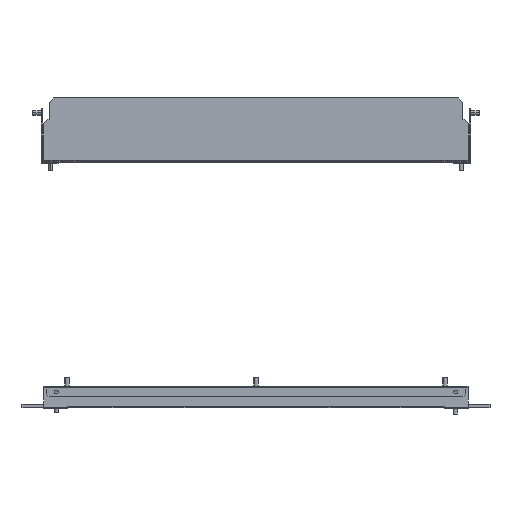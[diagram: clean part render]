
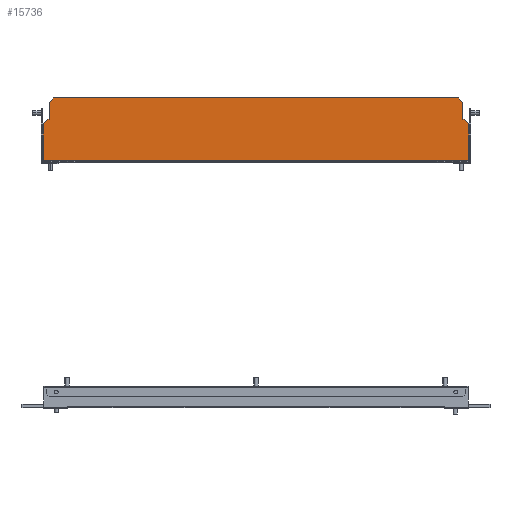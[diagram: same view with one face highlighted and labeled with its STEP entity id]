
A CAD part, front view. The second image highlights one B-rep face of the part: STEP entity #15736.
In plain terms, the highlighted planar face has unit normal (0, -1, 0).
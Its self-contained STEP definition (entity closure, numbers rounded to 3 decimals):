
#14611=CARTESIAN_POINT(' ',(247.5,-1.5,0.6));
#14612=VERTEX_POINT(' ',#14611);
#14626=CARTESIAN_POINT(' ',(247.5,-1.5,0.6));
#14631=DIRECTION(' ',(-1.,0.,0.));
#14636=VECTOR(' ',#14631,1.);
#14641=LINE('',#14626,#14636);
#14646=CARTESIAN_POINT(' ',(-247.5,-1.5,0.6));
#14647=VERTEX_POINT(' ',#14646);
#14651=EDGE_CURVE(' ',#14612,#14647,#14641,.T.);
#14831=CARTESIAN_POINT(' ',(-247.5,-1.5,0.6));
#14836=DIRECTION(' ',(0.,0.,1.));
#14841=VECTOR(' ',#14836,1.);
#14846=LINE('',#14831,#14841);
#14851=CARTESIAN_POINT(' ',(-247.5,-1.5,43.5));
#14852=VERTEX_POINT(' ',#14851);
#14856=EDGE_CURVE(' ',#14647,#14852,#14846,.T.);
#15346=DIRECTION(' ',(0.,-1.,0.));
#15351=CARTESIAN_POINT(' ',(-247.5,-1.5,73.5));
#15356=DIRECTION(' ',(0.,0.,-1.));
#15361=AXIS2_PLACEMENT_3D(' ',#15351,#15346,#15356);
#15366=PLANE('NONE',#15361);
#15371=CARTESIAN_POINT(' ',(247.5,-1.5,43.5));
#15376=DIRECTION(' ',(0.,0.,-1.));
#15381=VECTOR(' ',#15376,1.);
#15386=LINE('',#15371,#15381);
#15391=CARTESIAN_POINT(' ',(247.5,-1.5,43.5));
#15392=VERTEX_POINT(' ',#15391);
#15396=EDGE_CURVE(' ',#15392,#14612,#15386,.T.);
#15401=ORIENTED_EDGE(' ',*,*,#15396,.F.);
#15406=CARTESIAN_POINT(' ',(247.5,-1.5,43.5));
#15411=DIRECTION(' ',(-0.707,0.,0.707));
#15416=VECTOR(' ',#15411,1.);
#15421=LINE('',#15406,#15416);
#15426=CARTESIAN_POINT(' ',(242.5,-1.5,48.5));
#15427=VERTEX_POINT(' ',#15426);
#15431=EDGE_CURVE(' ',#15392,#15427,#15421,.T.);
#15436=ORIENTED_EDGE(' ',*,*,#15431,.T.);
#15441=CARTESIAN_POINT(' ',(240.5,-1.5,48.5));
#15446=DIRECTION(' ',(1.,0.,0.));
#15451=VECTOR(' ',#15446,1.);
#15456=LINE('',#15441,#15451);
#15461=CARTESIAN_POINT(' ',(240.5,-1.5,48.5));
#15462=VERTEX_POINT(' ',#15461);
#15466=EDGE_CURVE(' ',#15462,#15427,#15456,.T.);
#15471=ORIENTED_EDGE(' ',*,*,#15466,.F.);
#15476=CARTESIAN_POINT(' ',(240.5,-1.5,48.5));
#15481=DIRECTION(' ',(0.,0.,1.));
#15486=VECTOR(' ',#15481,1.);
#15491=LINE('',#15476,#15486);
#15496=CARTESIAN_POINT(' ',(240.5,-1.5,68.5));
#15497=VERTEX_POINT(' ',#15496);
#15501=EDGE_CURVE(' ',#15462,#15497,#15491,.T.);
#15506=ORIENTED_EDGE(' ',*,*,#15501,.T.);
#15511=CARTESIAN_POINT(' ',(240.5,-1.5,68.5));
#15516=DIRECTION(' ',(-0.707,0.,0.707));
#15521=VECTOR(' ',#15516,1.);
#15526=LINE('',#15511,#15521);
#15531=CARTESIAN_POINT(' ',(235.5,-1.5,73.5));
#15532=VERTEX_POINT(' ',#15531);
#15536=EDGE_CURVE(' ',#15497,#15532,#15526,.T.);
#15541=ORIENTED_EDGE(' ',*,*,#15536,.T.);
#15546=CARTESIAN_POINT(' ',(235.5,-1.5,73.5));
#15551=DIRECTION(' ',(-1.,0.,0.));
#15556=VECTOR(' ',#15551,1.);
#15561=LINE('',#15546,#15556);
#15566=CARTESIAN_POINT(' ',(-235.5,-1.5,73.5));
#15567=VERTEX_POINT(' ',#15566);
#15571=EDGE_CURVE(' ',#15532,#15567,#15561,.T.);
#15576=ORIENTED_EDGE(' ',*,*,#15571,.T.);
#15581=CARTESIAN_POINT(' ',(-235.5,-1.5,73.5));
#15586=DIRECTION(' ',(-0.707,0.,-0.707));
#15591=VECTOR(' ',#15586,1.);
#15596=LINE('',#15581,#15591);
#15601=CARTESIAN_POINT(' ',(-240.5,-1.5,68.5));
#15602=VERTEX_POINT(' ',#15601);
#15606=EDGE_CURVE(' ',#15567,#15602,#15596,.T.);
#15611=ORIENTED_EDGE(' ',*,*,#15606,.T.);
#15616=CARTESIAN_POINT(' ',(-240.5,-1.5,48.5));
#15621=DIRECTION(' ',(0.,0.,1.));
#15626=VECTOR(' ',#15621,1.);
#15631=LINE('',#15616,#15626);
#15636=CARTESIAN_POINT(' ',(-240.5,-1.5,48.5));
#15637=VERTEX_POINT(' ',#15636);
#15641=EDGE_CURVE(' ',#15637,#15602,#15631,.T.);
#15646=ORIENTED_EDGE(' ',*,*,#15641,.F.);
#15651=CARTESIAN_POINT(' ',(-240.5,-1.5,48.5));
#15656=DIRECTION(' ',(-1.,0.,0.));
#15661=VECTOR(' ',#15656,1.);
#15666=LINE('',#15651,#15661);
#15671=CARTESIAN_POINT(' ',(-242.5,-1.5,48.5));
#15672=VERTEX_POINT(' ',#15671);
#15676=EDGE_CURVE(' ',#15637,#15672,#15666,.T.);
#15681=ORIENTED_EDGE(' ',*,*,#15676,.T.);
#15686=CARTESIAN_POINT(' ',(-242.5,-1.5,48.5));
#15691=DIRECTION(' ',(-0.707,0.,-0.707));
#15696=VECTOR(' ',#15691,1.);
#15701=LINE('',#15686,#15696);
#15706=EDGE_CURVE(' ',#15672,#14852,#15701,.T.);
#15711=ORIENTED_EDGE(' ',*,*,#15706,.T.);
#15716=ORIENTED_EDGE(' ',*,*,#14856,.F.);
#15721=ORIENTED_EDGE(' ',*,*,#14651,.F.);
#15726=EDGE_LOOP(' ',(#15401,#15436,#15471,#15506,#15541,#15576,#15611,#15646,#15681,#15711,#15716,#15721));
#15731=FACE_OUTER_BOUND(' ',#15726,.T.);
#15736=ADVANCED_FACE('NONE',(#15731),#15366,.T.);
